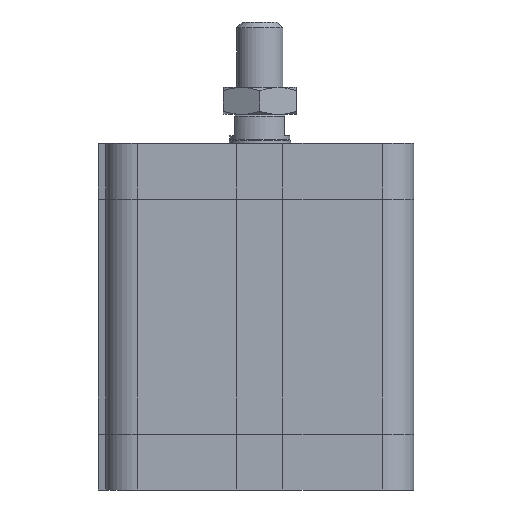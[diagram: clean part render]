
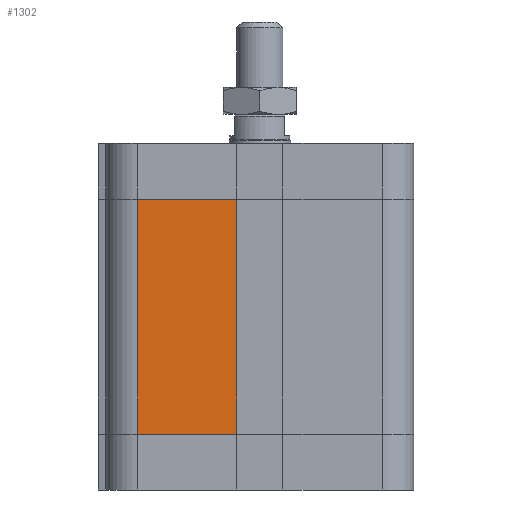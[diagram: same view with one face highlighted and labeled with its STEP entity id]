
A CAD part, left-side view. The second image highlights one B-rep face of the part: STEP entity #1302.
In plain terms, the highlighted planar face has unit normal (-1, 0, 0).
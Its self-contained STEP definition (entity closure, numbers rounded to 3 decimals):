
#1213=CARTESIAN_POINT('',(-40.,31.75,14.5));
#1214=VERTEX_POINT('',#1213);
#1222=CARTESIAN_POINT('',(-40.,31.75,75.5));
#1223=VERTEX_POINT('',#1222);
#1224=CARTESIAN_POINT('',(-40.,31.75,14.5));
#1225=DIRECTION('',(0.0,0.0,1.0));
#1226=VECTOR('',#1225,61.);
#1227=LINE('',#1224,#1226);
#1228=EDGE_CURVE('',#1214,#1223,#1227,.T.);
#1272=CARTESIAN_POINT('',(-40.0,6.,0.0));
#1273=DIRECTION('',(-1.0,0.0,0.0));
#1274=DIRECTION('',(0.0,0.0,1.0));
#1275=AXIS2_PLACEMENT_3D('',#1272,#1273,#1274);
#1276=PLANE('',#1275);
#1277=CARTESIAN_POINT('',(-40.0,6.,14.5));
#1278=VERTEX_POINT('',#1277);
#1279=CARTESIAN_POINT('',(-40.,31.75,14.5));
#1280=DIRECTION('',(0.0,-1.0,0.0));
#1281=VECTOR('',#1280,25.75);
#1282=LINE('',#1279,#1281);
#1283=EDGE_CURVE('',#1214,#1278,#1282,.T.);
#1284=ORIENTED_EDGE('',*,*,#1283,.T.);
#1285=CARTESIAN_POINT('',(-40.0,6.,75.5));
#1286=VERTEX_POINT('',#1285);
#1287=CARTESIAN_POINT('',(-40.0,6.,14.5));
#1288=DIRECTION('',(0.0,0.0,1.0));
#1289=VECTOR('',#1288,61.);
#1290=LINE('',#1287,#1289);
#1291=EDGE_CURVE('',#1278,#1286,#1290,.T.);
#1292=ORIENTED_EDGE('',*,*,#1291,.T.);
#1293=CARTESIAN_POINT('',(-40.,31.75,75.5));
#1294=DIRECTION('',(0.0,-1.0,0.0));
#1295=VECTOR('',#1294,25.75);
#1296=LINE('',#1293,#1295);
#1297=EDGE_CURVE('',#1223,#1286,#1296,.T.);
#1298=ORIENTED_EDGE('',*,*,#1297,.F.);
#1299=ORIENTED_EDGE('',*,*,#1228,.F.);
#1300=EDGE_LOOP('',(#1284,#1292,#1298,#1299));
#1301=FACE_OUTER_BOUND('',#1300,.T.);
#1302=ADVANCED_FACE('',(#1301),#1276,.T.);
